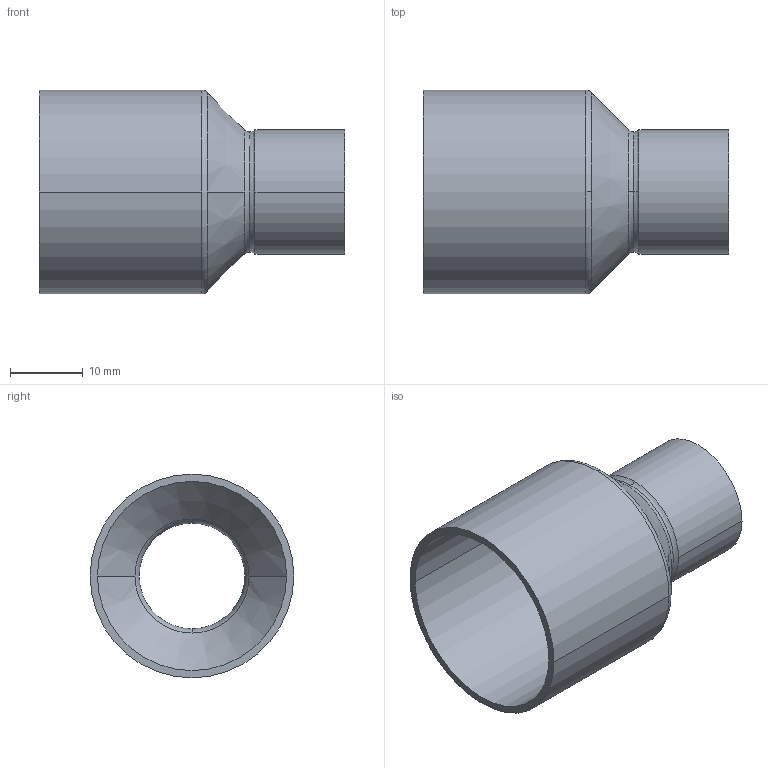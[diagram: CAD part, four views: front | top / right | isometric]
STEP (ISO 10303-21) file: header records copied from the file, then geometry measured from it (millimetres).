
FILE_DESCRIPTION((''),'2;1');
FILE_NAME('G:\Technics\CAD\Bauteile\Serie 15243\152432815.stp','2005-10-21T12:49:39',('boden'),(''),'Autodesk Inventor 8','Autodesk Inventor 8','');
FILE_SCHEMA(('AUTOMOTIVE_DESIGN { 1 0 10303 214 1 1 1 1 }'));
Length unit declared in the file: millimetre
Products named in the file (1): 152432815
Bounding box: 42 x 28 x 28 mm (x, y, z)
Volume: 3146.2 mm3; surface area: 6428.1 mm2
Topology: 1 solids, 1 shells, 24 faces, 60 edges, 38 vertices
Faces by surface type: cylinder 8, torus 6, bspline 4, cone 4, plane 2
Entity records: 931 total; most frequent: CARTESIAN_POINT 299, DIRECTION 150, ORIENTED_EDGE 120, AXIS2_PLACEMENT_3D 69, EDGE_CURVE 60, CIRCLE 48, VERTEX_POINT 38, EDGE_LOOP 26
